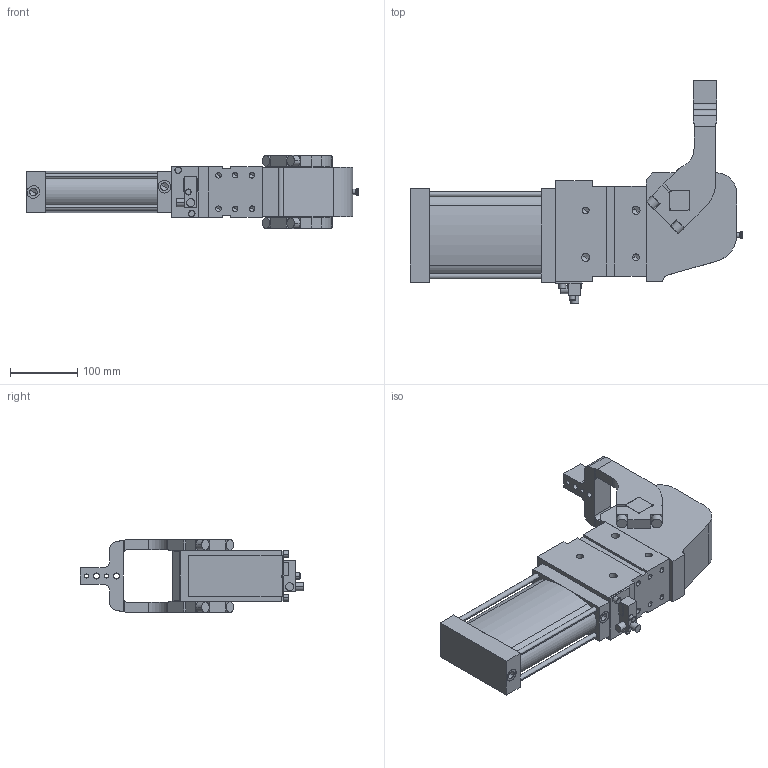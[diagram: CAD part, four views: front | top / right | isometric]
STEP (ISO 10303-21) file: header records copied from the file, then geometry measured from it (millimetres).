
FILE_DESCRIPTION (( 'STEP AP214' ), '1' );
FILE_NAME ('AKUHV80-Z01W12.STEP', '2026-07-07T17:54:15', ( '' ), ( '' ), 'SwSTEP 2.0', 'SolidWorks 2019', '' );
FILE_SCHEMA (( 'AUTOMOTIVE_DESIGN' ));
Length unit declared in the file: millimetre
Products named in the file (3): 80-Z01; AKUHV80-Z01W12; AKUHV80-Z00W12
Assembly tree (2 placements, depth 2):
  AKUHV80-Z01W12
    AKUHV80-Z00W12
    80-Z01
Bounding box: 495 x 333 x 109 mm (x, y, z)
Volume: 3942870.8 mm3; surface area: 379987 mm2
Topology: 2 solids, 3 shells, 359 faces, 921 edges, 556 vertices
Faces by surface type: plane 162, cylinder 129, cone 56, torus 12
Entity records: 10838 total; most frequent: CARTESIAN_POINT 2046, DIRECTION 1879, ORIENTED_EDGE 1754, EDGE_CURVE 877, AXIS2_PLACEMENT_3D 666, VERTEX_POINT 556, VECTOR 547, LINE 547
